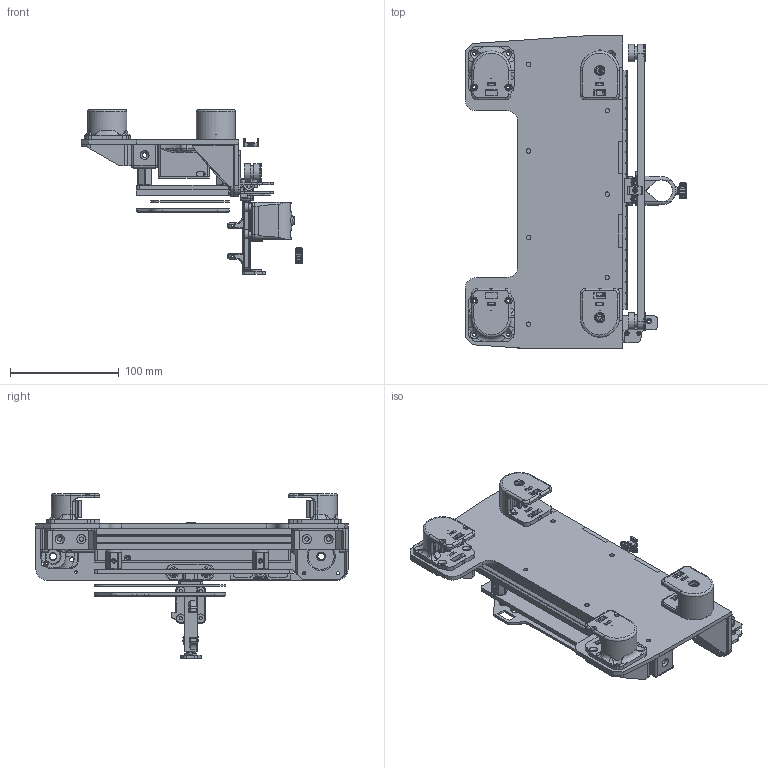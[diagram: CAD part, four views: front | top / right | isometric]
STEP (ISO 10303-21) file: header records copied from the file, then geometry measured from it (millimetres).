
FILE_DESCRIPTION(/* description */ (''),/* implementation_level */ '2;1');
FILE_NAME(/* name */ 'V2.stp',/* time_stamp */ '2026-03-27T00:18:18+03:00',/* author */ ('user'),/* organization */ (''),/* preprocessor_version */ 'ST-DEVELOPER v20.1',/* originating_system */ 'Autodesk Inventor 2026',/* authorisation */ '');
FILE_SCHEMA (('AUTOMOTIVE_DESIGN { 1 0 10303 214 3 1 1 }'));
Length unit declared in the file: millimetre
Products named in the file (1): Nema17H44
Bounding box: 204.12 x 287.58 x 152 mm (x, y, z)
Volume: 606330 mm3; surface area: 460232.2 mm2
Topology: 52 solids, 52 shells, 3037 faces, 8040 edges, 5087 vertices
Faces by surface type: plane 1146, cylinder 1120, bspline 347, cone 208, torus 179, sphere 37
Full cylindrical faces by diameter (mm): 2 x24, 2.4 x32, 2.5 x6, 2.8 x12, 3 x86, 3.3 x15, 3.7 x4, 4 x45, 4.2 x2, 5 x3, 5.4 x1, 5.5 x5, 5.7 x4, 6 x25, 6.5 x4, 7 x2, 7.2 x2, 7.5 x2, 7.6 x1, 8 x5, 8.1 x8, 9 x1, 11 x1, 12 x2, 12.2 x2, 13.1 x2, 15 x4, 16 x4, 24 x3
Entity records: 128002 total; most frequent: CARTESIAN_POINT 52524, ORIENTED_EDGE 15954, DIRECTION 15237, EDGE_CURVE 7977, AXIS2_PLACEMENT_3D 5552, VERTEX_POINT 5079, LINE 4133, VECTOR 4133
